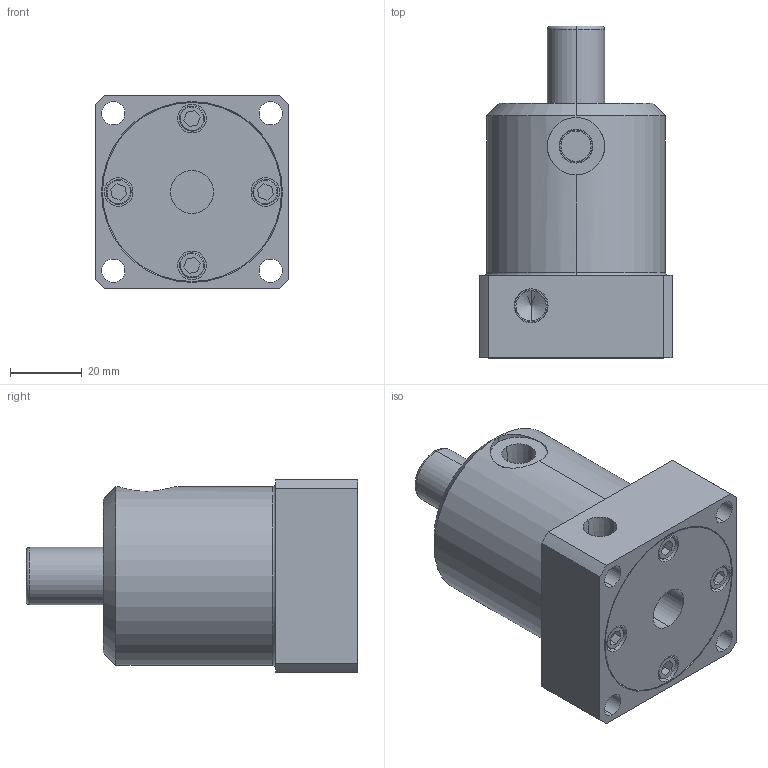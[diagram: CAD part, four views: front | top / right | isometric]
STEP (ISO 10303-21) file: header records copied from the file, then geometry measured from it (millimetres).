
FILE_DESCRIPTION((''),'2;1');
FILE_NAME('001_DESTACO_035_910_ASM','2024-02-28T',('SYSTEM'),(''),'PRO/ENGINEER BY PARAMETRIC TECHNOLOGY CORPORATION, 2016360','PRO/ENGINEER BY PARAMETRIC TECHNOLOGY CORPORATION, 2016360','');
FILE_SCHEMA(('AUTOMOTIVE_DESIGN { 1 0 10303 214 1 1 1 1 }'));
Products named in the file (10): 232BODY_5_RNM; 232BODY_6_RNM; 232BODY_4_RNM; 232BODY_3_RNM; 232BODY_2_RNM; 232BODY_0_RNM; 232-BODY_ASM; 232BODY_1_RNM; 232-SHAFT_ASM; 001_DESTACO_035_910_ASM
Assembly tree (9 placements, depth 3):
  001_DESTACO_035_910_ASM
    232-BODY_ASM
      232BODY_5_RNM
      232BODY_6_RNM
      232BODY_4_RNM
      232BODY_3_RNM
      232BODY_2_RNM
      232BODY_0_RNM
    232-SHAFT_ASM
      232BODY_1_RNM
Bounding box: 54.1 x 92.69 x 54.1 mm (x, y, z)
Volume: 157960 mm3; surface area: 36083.3 mm2
Topology: 7 solids, 7 shells, 156 faces, 345 edges, 218 vertices
Faces by surface type: cylinder 64, plane 60, cone 28, torus 4
Entity records: 6207 total; most frequent: CARTESIAN_POINT 880, DIRECTION 865, ORIENTED_EDGE 682, PRESENTATION_STYLE_ASSIGNMENT 348, STYLED_ITEM 348, AXIS2_PLACEMENT_3D 344, CURVE_STYLE 341, EDGE_CURVE 341
